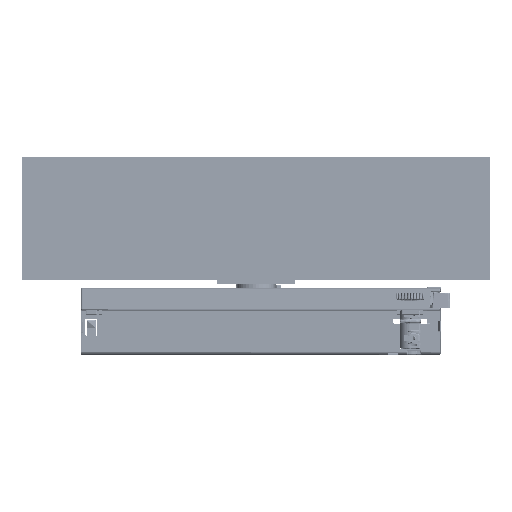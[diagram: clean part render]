
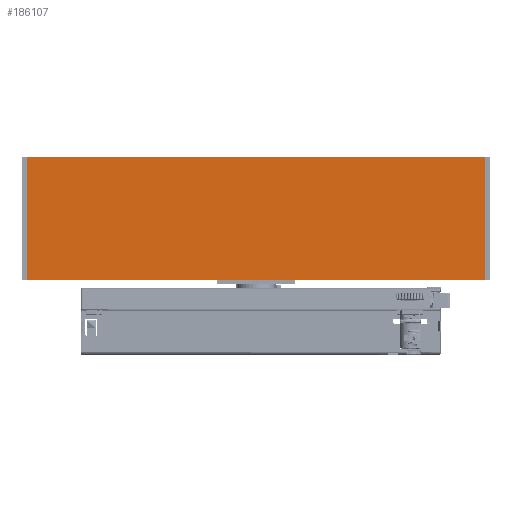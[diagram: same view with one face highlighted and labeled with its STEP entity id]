
A CAD part, top view. The second image highlights one B-rep face of the part: STEP entity #186107.
In plain terms, the highlighted planar face has unit normal (0, 0, 1).
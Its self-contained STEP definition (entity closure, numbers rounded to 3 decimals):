
#18125=FACE_OUTER_BOUND('',#28068,.T.);
#28068=EDGE_LOOP('',(#131295,#131296,#131297,#131298));
#44527=LINE('',#311511,#57864);
#44666=LINE('',#311905,#58003);
#44829=LINE('',#312360,#58166);
#44888=LINE('',#312480,#58225);
#57864=VECTOR('',#222976,1000.);
#58003=VECTOR('',#223321,1000.);
#58166=VECTOR('',#223766,1000.);
#58225=VECTOR('',#223947,1000.);
#72975=VERTEX_POINT('',#311508);
#72976=VERTEX_POINT('',#311510);
#73127=VERTEX_POINT('',#311902);
#73128=VERTEX_POINT('',#311904);
#93823=EDGE_CURVE('',#72975,#72976,#44527,.T.);
#94018=EDGE_CURVE('',#73128,#73127,#44666,.T.);
#94244=EDGE_CURVE('',#72975,#73128,#44829,.T.);
#94303=EDGE_CURVE('',#72976,#73127,#44888,.T.);
#131295=ORIENTED_EDGE('',*,*,#94018,.T.);
#131296=ORIENTED_EDGE('',*,*,#94303,.F.);
#131297=ORIENTED_EDGE('',*,*,#93823,.F.);
#131298=ORIENTED_EDGE('',*,*,#94244,.T.);
#170757=PLANE('',#198354);
#186107=ADVANCED_FACE('',(#18125),#170757,.F.);
#198354=AXIS2_PLACEMENT_3D('',#312479,#223945,#223946);
#222976=DIRECTION('',(0.,-1.,0.));
#223321=DIRECTION('',(0.,-1.,0.));
#223766=DIRECTION('',(-1.,0.,0.));
#223945=DIRECTION('center_axis',(0.,0.,
-1.));
#223946=DIRECTION('ref_axis',(0.,1.,0.));
#223947=DIRECTION('',(-1.,0.,0.));
#311508=CARTESIAN_POINT('',(147.,27.669,16.9));
#311510=CARTESIAN_POINT('',(147.,-50.981,16.9));
#311511=CARTESIAN_POINT('',(147.,27.669,16.9));
#311902=CARTESIAN_POINT('',(-147.,-50.981,16.9));
#311904=CARTESIAN_POINT('',(-147.,27.669,16.9));
#311905=CARTESIAN_POINT('',(-147.,27.669,16.9));
#312360=CARTESIAN_POINT('',(147.,27.669,16.9));
#312479=CARTESIAN_POINT('Origin',(147.,27.669,16.9));
#312480=CARTESIAN_POINT('',(147.,-50.981,16.9));
